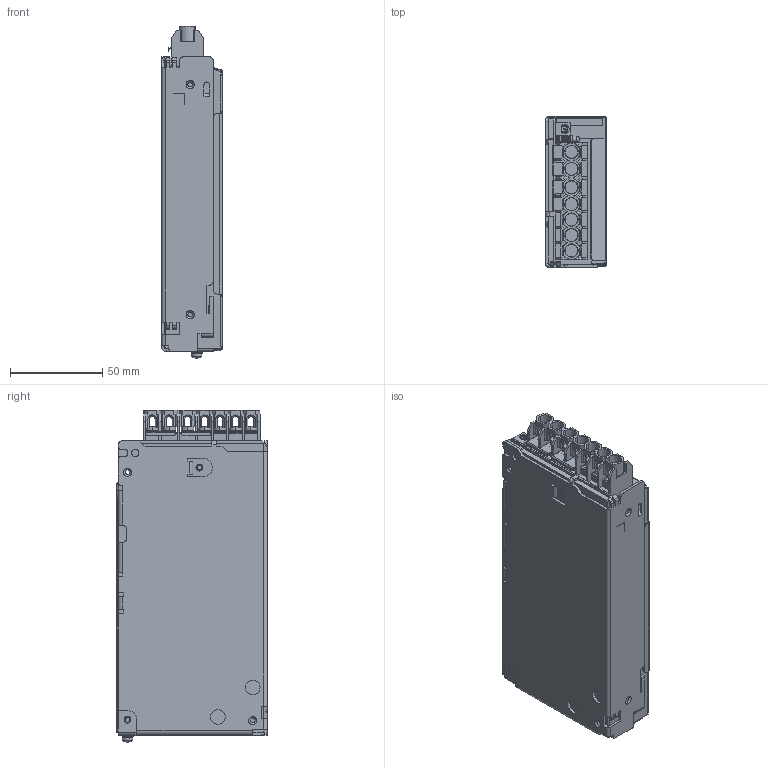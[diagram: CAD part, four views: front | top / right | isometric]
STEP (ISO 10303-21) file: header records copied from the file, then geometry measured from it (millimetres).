
FILE_DESCRIPTION (( 'STEP AP214' ), '1' );
FILE_NAME ('hws100a_a_outline.STEP', '2013-11-14T13:11:07', ( '' ), ( '' ), 'SwSTEP 2.0', 'SolidWorks 2013', '' );
FILE_SCHEMA (( 'AUTOMOTIVE_DESIGN' ));
Length unit declared in the file: millimetre
Products named in the file (1): hws100a_a_outline
Bounding box: 33 x 82 x 180.35 mm (x, y, z)
Volume: 423235.7 mm3; surface area: 55602.2 mm2
Topology: 3 solids, 45 shells, 2181 faces, 5940 edges, 3882 vertices
Faces by surface type: plane 1567, cylinder 508, cone 75, bspline 23, torus 4, sphere 4
Entity records: 93318 total; most frequent: CARTESIAN_POINT 13549, ORIENTED_EDGE 11812, DIRECTION 11214, EDGE_CURVE 5906, VECTOR 4500, LINE 4500, VERTEX_POINT 3880, AXIS2_PLACEMENT_3D 3357
